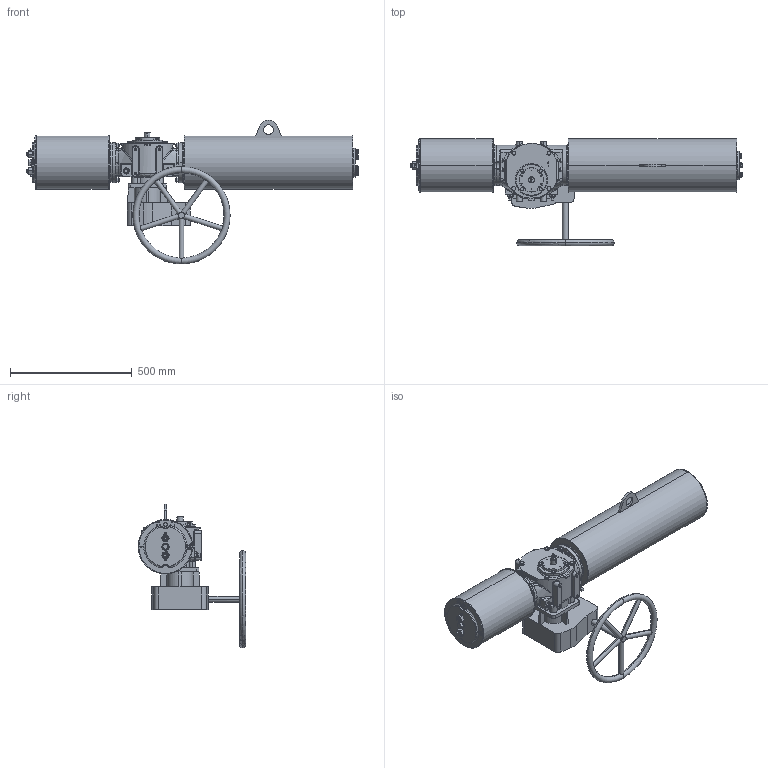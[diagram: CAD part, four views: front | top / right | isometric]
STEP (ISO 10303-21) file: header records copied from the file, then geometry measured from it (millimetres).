
FILE_DESCRIPTION (( 'STEP AP203' ), '1' );
FILE_NAME ('VTS1-200-SR-MW-FC.STEP', '2023-01-01T07:19:21', ( '' ), ( '' ), 'SwSTEP 2.0', 'SolidWorks 2020', '' );
FILE_SCHEMA (( 'CONFIG_CONTROL_DESIGN' ));
Length unit declared in the file: millimetre
Products named in the file (1): VTS1-200-SR-MW-FC
Bounding box: 1365.78 x 442.5 x 592 mm (x, y, z)
Volume: 53290210.3 mm3; surface area: 1874312.3 mm2
Topology: 9 solids, 12 shells, 1978 faces, 5262 edges, 3361 vertices
Faces by surface type: plane 771, cylinder 616, cone 390, bspline 197, torus 4
Entity records: 88836 total; most frequent: CARTESIAN_POINT 42962, ORIENTED_EDGE 10376, DIRECTION 8407, EDGE_CURVE 5188, VERTEX_POINT 3361, AXIS2_PLACEMENT_3D 3172, EDGE_LOOP 2181, LINE 2063
